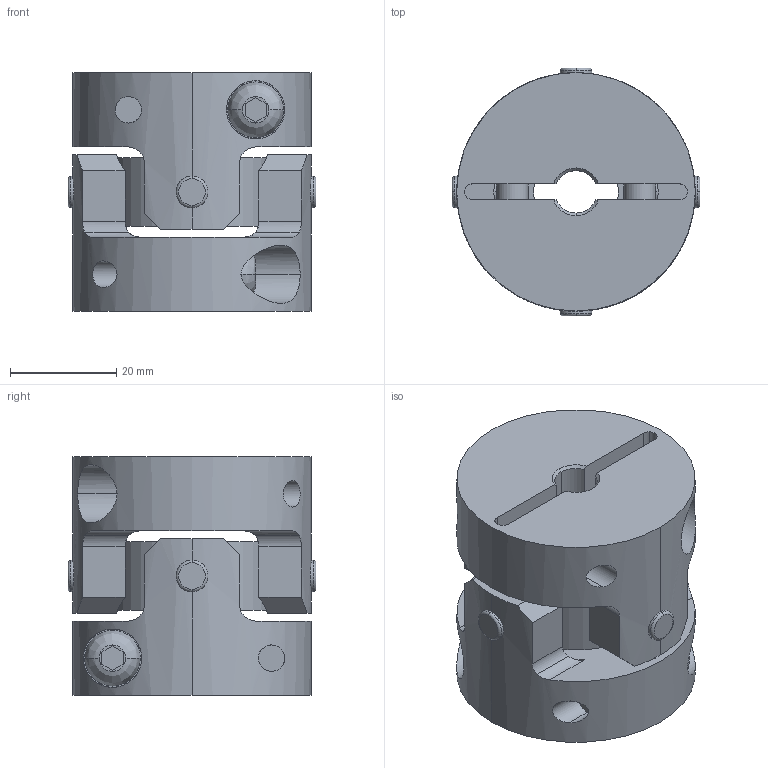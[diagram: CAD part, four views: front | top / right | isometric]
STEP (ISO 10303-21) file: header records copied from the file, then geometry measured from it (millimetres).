
FILE_DESCRIPTION((''),'2;1');
FILE_NAME('UA-45C-8×17.stp','2013-05-22T09:49:16',(''),(''),'AutoCAD STEP 2000i','AutoCAD 2000i',', , ');
FILE_SCHEMA(('CONFIG_CONTROL_DESIGN'));
Length unit declared in the file: millimetre
Products named in the file (7): UA-45C-8×17; 忣兜1; UA-4502-D17; BTN-M6; UA-4502-D08-1; UA-4502-D08; UA45-SEN
Assembly tree (8 placements, depth 3):
  UA-45C-8×17
    忣兜1
    UA-4502-D17
      BTN-M6
    UA-4502-D08-1
      BTN-M6
    UA-4502-D08
      BTN-M6
    UA45-SEN
Bounding box: 46.73 x 46.73 x 45 mm (x, y, z)
Volume: 50146.4 mm3; surface area: 19885.8 mm2
Topology: 1 solids, 1 shells, 206 faces, 554 edges, 364 vertices
Faces by surface type: cylinder 96, plane 78, cone 16, bspline 8, torus 8
Entity records: 8537 total; most frequent: CARTESIAN_POINT 3201, ORIENTED_EDGE 1108, DIRECTION 1068, EDGE_CURVE 554, AXIS2_PLACEMENT_3D 411, VERTEX_POINT 364, VECTOR 246, LINE 246
